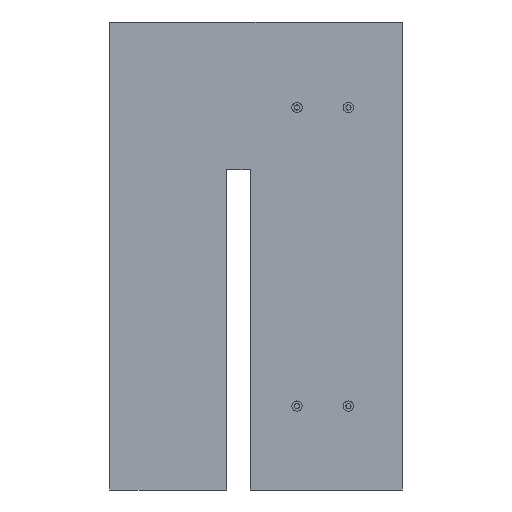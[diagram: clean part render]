
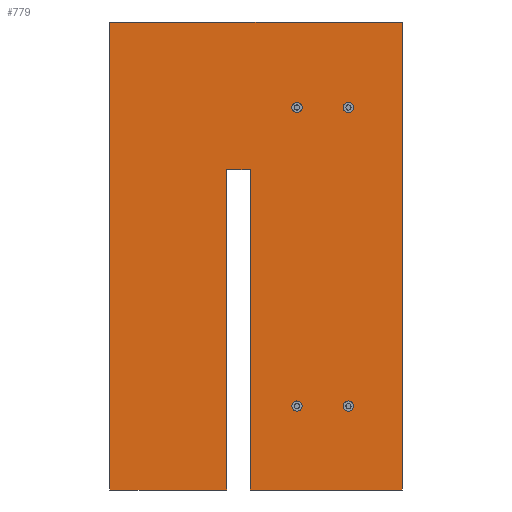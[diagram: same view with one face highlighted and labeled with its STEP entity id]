
A CAD part, left-side view. The second image highlights one B-rep face of the part: STEP entity #779.
In plain terms, the highlighted planar face has unit normal (-1, 0, 0).
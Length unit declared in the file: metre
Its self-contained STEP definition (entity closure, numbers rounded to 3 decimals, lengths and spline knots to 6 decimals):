
#52=LINE('',#1199,#112);
#60=LINE('',#1218,#120);
#61=LINE('',#1220,#121);
#62=LINE('',#1223,#122);
#63=LINE('',#1224,#123);
#64=LINE('',#1226,#124);
#65=LINE('',#1227,#125);
#66=LINE('',#1229,#126);
#112=VECTOR('',#961,1.);
#120=VECTOR('',#973,1.);
#121=VECTOR('',#976,1.);
#122=VECTOR('',#977,1.);
#123=VECTOR('',#978,1.);
#124=VECTOR('',#979,1.);
#125=VECTOR('',#980,1.);
#126=VECTOR('',#981,1.);
#192=ORIENTED_EDGE('',*,*,#376,.T.);
#193=ORIENTED_EDGE('',*,*,#377,.T.);
#194=ORIENTED_EDGE('',*,*,#375,.F.);
#195=ORIENTED_EDGE('',*,*,#378,.T.);
#196=ORIENTED_EDGE('',*,*,#379,.T.);
#197=ORIENTED_EDGE('',*,*,#366,.F.);
#198=ORIENTED_EDGE('',*,*,#380,.F.);
#199=ORIENTED_EDGE('',*,*,#381,.T.);
#200=ORIENTED_EDGE('',*,*,#382,.T.);
#201=ORIENTED_EDGE('',*,*,#383,.T.);
#202=ORIENTED_EDGE('',*,*,#384,.T.);
#203=ORIENTED_EDGE('',*,*,#385,.T.);
#366=EDGE_CURVE('',#456,#453,#52,.T.);
#375=EDGE_CURVE('',#465,#463,#60,.T.);
#376=EDGE_CURVE('',#466,#467,#61,.T.);
#377=EDGE_CURVE('',#467,#463,#62,.T.);
#378=EDGE_CURVE('',#465,#468,#63,.T.);
#379=EDGE_CURVE('',#468,#453,#64,.T.);
#380=EDGE_CURVE('',#469,#456,#65,.T.);
#381=EDGE_CURVE('',#469,#466,#66,.T.);
#382=EDGE_CURVE('',#470,#470,#524,.T.);
#383=EDGE_CURVE('',#471,#471,#525,.T.);
#384=EDGE_CURVE('',#472,#472,#526,.T.);
#385=EDGE_CURVE('',#473,#473,#527,.T.);
#453=VERTEX_POINT('',#1193);
#456=VERTEX_POINT('',#1198);
#463=VERTEX_POINT('',#1213);
#465=VERTEX_POINT('',#1217);
#466=VERTEX_POINT('',#1221);
#467=VERTEX_POINT('',#1222);
#468=VERTEX_POINT('',#1225);
#469=VERTEX_POINT('',#1228);
#470=VERTEX_POINT('',#1231);
#471=VERTEX_POINT('',#1233);
#472=VERTEX_POINT('',#1235);
#473=VERTEX_POINT('',#1237);
#524=CIRCLE('',#851,0.0022);
#525=CIRCLE('',#852,0.0022);
#526=CIRCLE('',#853,0.0022);
#527=CIRCLE('',#854,0.0022);
#565=EDGE_LOOP('',(#192,#193,#194,#195,#196,#197,#198,#199));
#566=EDGE_LOOP('',(#200));
#567=EDGE_LOOP('',(#201));
#568=EDGE_LOOP('',(#202));
#569=EDGE_LOOP('',(#203));
#659=FACE_BOUND('',#565,.T.);
#660=FACE_BOUND('',#566,.T.);
#661=FACE_BOUND('',#567,.T.);
#662=FACE_BOUND('',#568,.T.);
#663=FACE_BOUND('',#569,.T.);
#749=PLANE('',#850);
#779=ADVANCED_FACE('',(#659,#660,#661,#662,#663),#749,.F.);
#850=AXIS2_PLACEMENT_3D('',#1219,#974,#975);
#851=AXIS2_PLACEMENT_3D('',#1230,#982,#983);
#852=AXIS2_PLACEMENT_3D('',#1232,#984,#985);
#853=AXIS2_PLACEMENT_3D('',#1234,#986,#987);
#854=AXIS2_PLACEMENT_3D('',#1236,#988,#989);
#961=DIRECTION('',(0.,-1.,0.));
#973=DIRECTION('',(0.,0.,1.));
#974=DIRECTION('',(1.,0.,0.));
#975=DIRECTION('',(0.,0.,-1.));
#976=DIRECTION('',(0.,0.,1.));
#977=DIRECTION('',(0.,-1.,0.));
#978=DIRECTION('',(0.,-1.,0.));
#979=DIRECTION('',(0.,0.,1.));
#980=DIRECTION('',(0.,0.,1.));
#981=DIRECTION('',(0.,-1.,0.));
#982=DIRECTION('',(1.,0.,0.));
#983=DIRECTION('',(0.,0.,-1.));
#984=DIRECTION('',(1.,0.,0.));
#985=DIRECTION('',(0.,0.,-1.));
#986=DIRECTION('',(1.,0.,0.));
#987=DIRECTION('',(0.,0.,-1.));
#988=DIRECTION('',(1.,0.,0.));
#989=DIRECTION('',(0.,0.,-1.));
#1193=CARTESIAN_POINT('',(0.,0.,0.2));
#1198=CARTESIAN_POINT('',(0.,0.125,0.2));
#1199=CARTESIAN_POINT('',(0.,0.065,0.2));
#1213=CARTESIAN_POINT('',(0.,0.065,0.13692));
#1217=CARTESIAN_POINT('',(0.,0.065,0.));
#1218=CARTESIAN_POINT('',(0.,0.065,0.1));
#1219=CARTESIAN_POINT('',(0.,0.065,0.1));
#1220=CARTESIAN_POINT('',(0.,0.075,0.149655));
#1221=CARTESIAN_POINT('',(0.,0.075,0.));
#1222=CARTESIAN_POINT('',(0.,0.075,0.13692));
#1223=CARTESIAN_POINT('',(0.,0.075,0.13692));
#1224=CARTESIAN_POINT('',(0.,0.065,0.));
#1225=CARTESIAN_POINT('',(0.,0.,0.));
#1226=CARTESIAN_POINT('',(0.,0.,0.1));
#1227=CARTESIAN_POINT('',(0.,0.125,0.149655));
#1228=CARTESIAN_POINT('',(0.,0.125,0.));
#1229=CARTESIAN_POINT('',(0.,0.125,0.));
#1230=CARTESIAN_POINT('',(0.,0.045,0.03586));
#1231=CARTESIAN_POINT('',(0.,0.045,0.03366));
#1232=CARTESIAN_POINT('',(0.,0.023,0.03586));
#1233=CARTESIAN_POINT('',(0.,0.023,0.03366));
#1234=CARTESIAN_POINT('',(0.,0.023,0.16346));
#1235=CARTESIAN_POINT('',(0.,0.023,0.16126));
#1236=CARTESIAN_POINT('',(0.,0.045,0.16346));
#1237=CARTESIAN_POINT('',(0.,0.045,0.16126));
